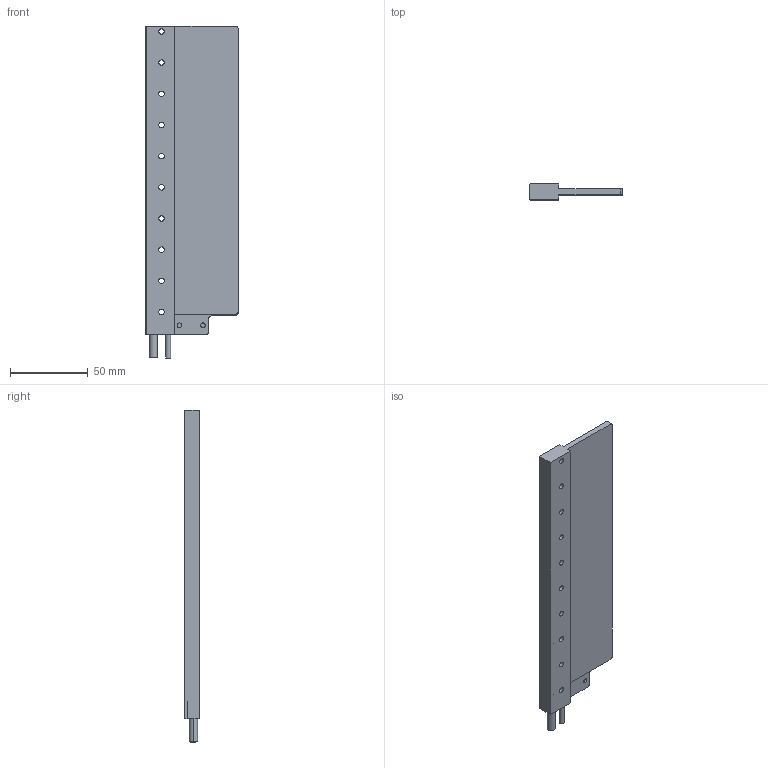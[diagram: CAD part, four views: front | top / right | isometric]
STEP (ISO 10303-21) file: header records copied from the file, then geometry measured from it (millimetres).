
FILE_DESCRIPTION (( 'STEP AP203' ), '1' );
FILE_NAME ('IL9-59 assembly 3D.STEP', '2022-10-28T06:06:22', ( '' ), ( '' ), 'SwSTEP 2.0', 'SolidWorks 2021', '' );
FILE_SCHEMA (( 'CONFIG_CONTROL_DESIGN' ));
Length unit declared in the file: millimetre
Products named in the file (1): IL9-59 assembly 3D
Bounding box: 59.1 x 10 x 213 mm (x, y, z)
Volume: 64791.5 mm3; surface area: 30310.7 mm2
Topology: 1 solids, 10 shells, 190 faces, 473 edges, 303 vertices
Faces by surface type: cylinder 90, plane 78, cone 22
Entity records: 5742 total; most frequent: DIRECTION 1037, CARTESIAN_POINT 987, ORIENTED_EDGE 926, EDGE_CURVE 463, AXIS2_PLACEMENT_3D 393, VERTEX_POINT 303, VECTOR 251, LINE 251
